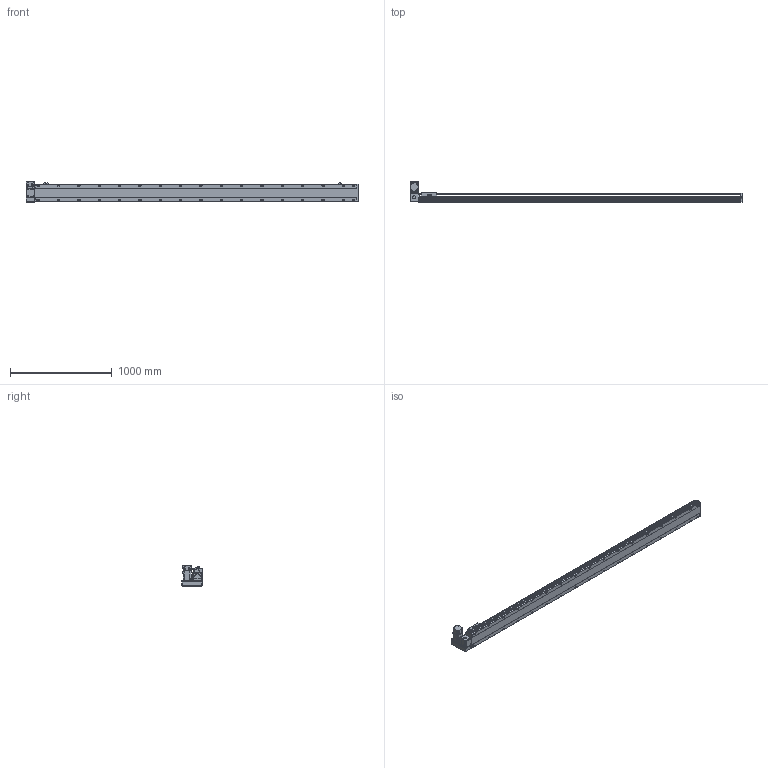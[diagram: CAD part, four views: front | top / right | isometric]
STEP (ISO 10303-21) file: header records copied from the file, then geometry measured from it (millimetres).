
FILE_DESCRIPTION( ( 'STEP AP214' ), '1' );
FILE_NAME( 'x:/temp/worker_4/temp/exporttempdir_2248_422_kKFO2/format_0/PBS170-P40-S2900-LU-T75-C1-N(0).stp', '2022-06-07T08:17:59', ( 'License CC BY-ND 4.0' ), ( 'CADENAS' ), ' ', 'PARTsolutions', ' ' );
FILE_SCHEMA( ( 'AUTOMOTIVE_DESIGN { 1 0 10303 214 1 1 1 1 }' ) );
Length unit declared in the file: millimetre
Products named in the file (7): PBS170-P40-S2900-LU-T75-C1-N(0); _PBS170-S2900()_body; _PBS170T-LU_motors; _T75-p1; _PBS170_sliser; _PBS170_plant; _PBS170_sensor
Assembly tree (8 placements, depth 2):
  PBS170-P40-S2900-LU-T75-C1-N(0)
    _PBS170-S2900()_body
    _PBS170T-LU_motors
    _T75-p1
    _PBS170_sliser
    _PBS170_plant
    _PBS170_sensor  x3
Bounding box: 3263 x 206 x 197.3 mm (x, y, z)
Volume: 24527413.1 mm3; surface area: 3073959.7 mm2
Topology: 8 solids, 8 shells, 1226 faces, 3235 edges, 2108 vertices
Faces by surface type: plane 741, cylinder 411, cone 64, sphere 8, torus 2
Full cylindrical faces by diameter (mm): 3.242 x4, 4 x2, 4.4 x4, 4.5 x6, 4.917 x4, 6 x9, 6.647 x42, 7 x2, 7.5 x4, 8 x8, 8.5 x34, 10 x4, 10.5 x34, 11 x2, 30 x2, 40 x1, 70 x1
Entity records: 45518 total; most frequent: CARTESIAN_POINT 7733, DIRECTION 5930, ORIENTED_EDGE 5568, EDGE_CURVE 2784, AXIS2_PLACEMENT_3D 2107, VERTEX_POINT 1946, LINE 1716, VECTOR 1716
